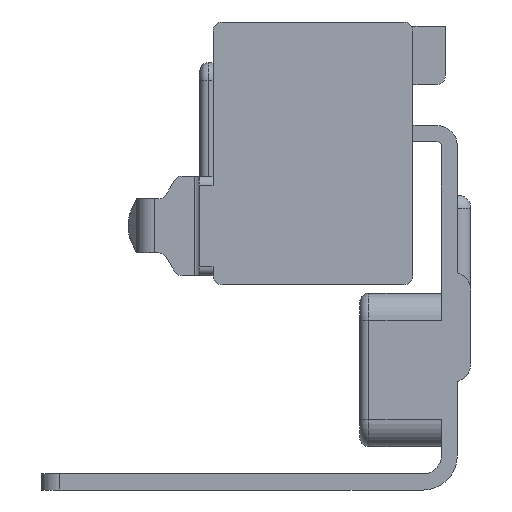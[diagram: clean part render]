
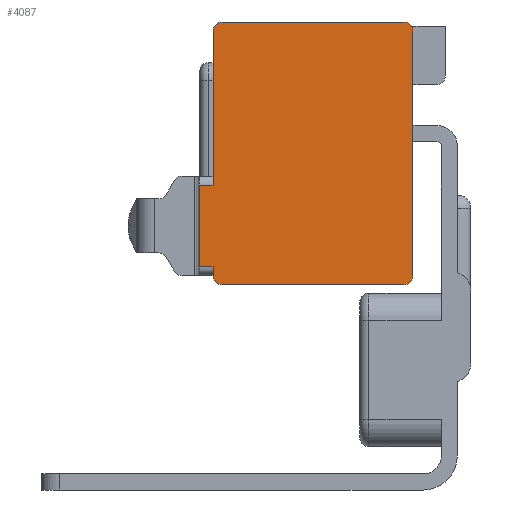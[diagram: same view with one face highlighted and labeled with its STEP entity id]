
A CAD part, left-side view. The second image highlights one B-rep face of the part: STEP entity #4087.
In plain terms, the highlighted planar face has unit normal (-1, 0, 0).
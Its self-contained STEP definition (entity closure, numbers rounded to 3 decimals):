
#21 = VERTEX_POINT ( 'NONE', #6139 ) ;
#71 = CARTESIAN_POINT ( 'NONE',  ( -233., 4.9, 60.46 ) ) ;
#99 = VERTEX_POINT ( 'NONE', #1541 ) ;
#103 = CIRCLE ( 'NONE', #5546, 1. ) ;
#172 = CARTESIAN_POINT ( 'NONE',  ( -233., 27., 60.46 ) ) ;
#251 = EDGE_CURVE ( 'NONE', #2219, #6150, #5899, .T. ) ;
#267 = LINE ( 'NONE', #1363, #1485 ) ;
#342 = VECTOR ( 'NONE', #4467, 1000. ) ;
#351 = PLANE ( 'NONE',  #3847 ) ;
#363 = VECTOR ( 'NONE', #5611, 1000. ) ;
#656 = AXIS2_PLACEMENT_3D ( 'NONE', #4516, #1339, #5019 ) ;
#868 = DIRECTION ( 'NONE',  ( 0., 1., 0. ) ) ;
#896 = LINE ( 'NONE', #939, #3235 ) ;
#939 = CARTESIAN_POINT ( 'NONE',  ( -233., 5.9, 88.49 ) ) ;
#1044 = CARTESIAN_POINT ( 'NONE',  ( -233., 5.9, 59.46 ) ) ;
#1205 = ORIENTED_EDGE ( 'NONE', *, *, #4018, .F. ) ;
#1290 = DIRECTION ( 'NONE',  ( 0., 0., 1. ) ) ;
#1339 = DIRECTION ( 'NONE',  ( 1., 0., 0. ) ) ;
#1363 = CARTESIAN_POINT ( 'NONE',  ( -233., 28.5, 61.46 ) ) ;
#1400 = DIRECTION ( 'NONE',  ( 0., 0., -1. ) ) ;
#1485 = VECTOR ( 'NONE', #4526, 1000. ) ;
#1541 = CARTESIAN_POINT ( 'NONE',  ( -233., 4.9, 87.49 ) ) ;
#1827 = DIRECTION ( 'NONE',  ( 1., 0., 0. ) ) ;
#1886 = CARTESIAN_POINT ( 'NONE',  ( -233., 5.9, 88.49 ) ) ;
#1916 = CARTESIAN_POINT ( 'NONE',  ( -233., 5.9, 87.49 ) ) ;
#2031 = VECTOR ( 'NONE', #1290, 1000. ) ;
#2068 = AXIS2_PLACEMENT_3D ( 'NONE', #5245, #5195, #4736 ) ;
#2112 = ORIENTED_EDGE ( 'NONE', *, *, #4783, .F. ) ;
#2208 = EDGE_CURVE ( 'NONE', #21, #2219, #3151, .T. ) ;
#2219 = VERTEX_POINT ( 'NONE', #5026 ) ;
#2287 = ORIENTED_EDGE ( 'NONE', *, *, #251, .F. ) ;
#2346 = CARTESIAN_POINT ( 'NONE',  ( -233., 26., 59.46 ) ) ;
#2405 = LINE ( 'NONE', #4030, #5027 ) ;
#2460 = DIRECTION ( 'NONE',  ( 0., 1., 0. ) ) ;
#2491 = VERTEX_POINT ( 'NONE', #4547 ) ;
#2579 = VERTEX_POINT ( 'NONE', #4013 ) ;
#2651 = EDGE_LOOP ( 'NONE', ( #5255, #5300, #2287, #6699, #4665, #6302, #5453, #5070, #4720, #1205, #5312, #2112 ) ) ;
#2679 = FACE_OUTER_BOUND ( 'NONE', #2651, .T. ) ;
#2886 = VERTEX_POINT ( 'NONE', #2346 ) ;
#2917 = CIRCLE ( 'NONE', #2068, 1. ) ;
#3027 = VERTEX_POINT ( 'NONE', #172 ) ;
#3032 = VERTEX_POINT ( 'NONE', #3404 ) ;
#3111 = LINE ( 'NONE', #6467, #5678 ) ;
#3151 = LINE ( 'NONE', #3932, #342 ) ;
#3235 = VECTOR ( 'NONE', #4096, 1000. ) ;
#3263 = EDGE_CURVE ( 'NONE', #6150, #4601, #2917, .T. ) ;
#3404 = CARTESIAN_POINT ( 'NONE',  ( -233., 4.9, 60.46 ) ) ;
#3440 = LINE ( 'NONE', #5940, #2031 ) ;
#3588 = VECTOR ( 'NONE', #4804, 1000. ) ;
#3643 = EDGE_CURVE ( 'NONE', #4601, #5994, #896, .T. ) ;
#3765 = VERTEX_POINT ( 'NONE', #1044 ) ;
#3847 = AXIS2_PLACEMENT_3D ( 'NONE', #4028, #4572, #1400 ) ;
#3910 = CIRCLE ( 'NONE', #6695, 1. ) ;
#3932 = CARTESIAN_POINT ( 'NONE',  ( -233., 28.5, 70.46 ) ) ;
#4013 = CARTESIAN_POINT ( 'NONE',  ( -233., 28.5, 61.46 ) ) ;
#4018 = EDGE_CURVE ( 'NONE', #3032, #3765, #5890, .T. ) ;
#4028 = CARTESIAN_POINT ( 'NONE',  ( -233., 28.5, 60.46 ) ) ;
#4030 = CARTESIAN_POINT ( 'NONE',  ( -233., 5.9, 59.46 ) ) ;
#4087 = ADVANCED_FACE ( 'NONE', ( #2679 ), #351, .F. ) ;
#4096 = DIRECTION ( 'NONE',  ( 0., -1., 0. ) ) ;
#4441 = CARTESIAN_POINT ( 'NONE',  ( -233., 26., 88.49 ) ) ;
#4467 = DIRECTION ( 'NONE',  ( 0., -1., 0. ) ) ;
#4516 = CARTESIAN_POINT ( 'NONE',  ( -233., 5.9, 60.46 ) ) ;
#4526 = DIRECTION ( 'NONE',  ( 0., 1., 0. ) ) ;
#4547 = CARTESIAN_POINT ( 'NONE',  ( -233., 27., 61.46 ) ) ;
#4572 = DIRECTION ( 'NONE',  ( 1., 0., 0. ) ) ;
#4601 = VERTEX_POINT ( 'NONE', #4441 ) ;
#4665 = ORIENTED_EDGE ( 'NONE', *, *, #5876, .F. ) ;
#4720 = ORIENTED_EDGE ( 'NONE', *, *, #5250, .F. ) ;
#4736 = DIRECTION ( 'NONE',  ( 0., 1., 0. ) ) ;
#4745 = EDGE_CURVE ( 'NONE', #2491, #2579, #267, .T. ) ;
#4783 = EDGE_CURVE ( 'NONE', #5994, #99, #103, .T. ) ;
#4804 = DIRECTION ( 'NONE',  ( 0., 0., -1. ) ) ;
#4965 = CARTESIAN_POINT ( 'NONE',  ( -233., 26., 60.46 ) ) ;
#4978 = LINE ( 'NONE', #71, #3588 ) ;
#4987 = DIRECTION ( 'NONE',  ( 0., 0., 1. ) ) ;
#5019 = DIRECTION ( 'NONE',  ( 0., 1., 0. ) ) ;
#5026 = CARTESIAN_POINT ( 'NONE',  ( -233., 27., 70.46 ) ) ;
#5027 = VECTOR ( 'NONE', #868, 1000. ) ;
#5070 = ORIENTED_EDGE ( 'NONE', *, *, #6718, .F. ) ;
#5179 = CARTESIAN_POINT ( 'NONE',  ( -233., 27., 87.49 ) ) ;
#5195 = DIRECTION ( 'NONE',  ( 1., 0., 0. ) ) ;
#5245 = CARTESIAN_POINT ( 'NONE',  ( -233., 26., 87.49 ) ) ;
#5250 = EDGE_CURVE ( 'NONE', #3765, #2886, #2405, .T. ) ;
#5255 = ORIENTED_EDGE ( 'NONE', *, *, #3643, .F. ) ;
#5300 = ORIENTED_EDGE ( 'NONE', *, *, #3263, .F. ) ;
#5312 = ORIENTED_EDGE ( 'NONE', *, *, #6295, .F. ) ;
#5453 = ORIENTED_EDGE ( 'NONE', *, *, #5921, .F. ) ;
#5468 = DIRECTION ( 'NONE',  ( 0., 1., 0. ) ) ;
#5546 = AXIS2_PLACEMENT_3D ( 'NONE', #1916, #5548, #2460 ) ;
#5548 = DIRECTION ( 'NONE',  ( 1., 0., 0. ) ) ;
#5611 = DIRECTION ( 'NONE',  ( 0., 0., 1. ) ) ;
#5678 = VECTOR ( 'NONE', #4987, 1000. ) ;
#5876 = EDGE_CURVE ( 'NONE', #2579, #21, #3440, .T. ) ;
#5890 = CIRCLE ( 'NONE', #656, 1. ) ;
#5899 = LINE ( 'NONE', #6593, #363 ) ;
#5921 = EDGE_CURVE ( 'NONE', #3027, #2491, #3111, .T. ) ;
#5940 = CARTESIAN_POINT ( 'NONE',  ( -233., 28.5, 60.46 ) ) ;
#5994 = VERTEX_POINT ( 'NONE', #1886 ) ;
#6139 = CARTESIAN_POINT ( 'NONE',  ( -233., 28.5, 70.46 ) ) ;
#6150 = VERTEX_POINT ( 'NONE', #5179 ) ;
#6295 = EDGE_CURVE ( 'NONE', #99, #3032, #4978, .T. ) ;
#6302 = ORIENTED_EDGE ( 'NONE', *, *, #4745, .F. ) ;
#6467 = CARTESIAN_POINT ( 'NONE',  ( -233., 27., 87.49 ) ) ;
#6593 = CARTESIAN_POINT ( 'NONE',  ( -233., 27., 87.49 ) ) ;
#6695 = AXIS2_PLACEMENT_3D ( 'NONE', #4965, #1827, #5468 ) ;
#6699 = ORIENTED_EDGE ( 'NONE', *, *, #2208, .F. ) ;
#6718 = EDGE_CURVE ( 'NONE', #2886, #3027, #3910, .T. ) ;
